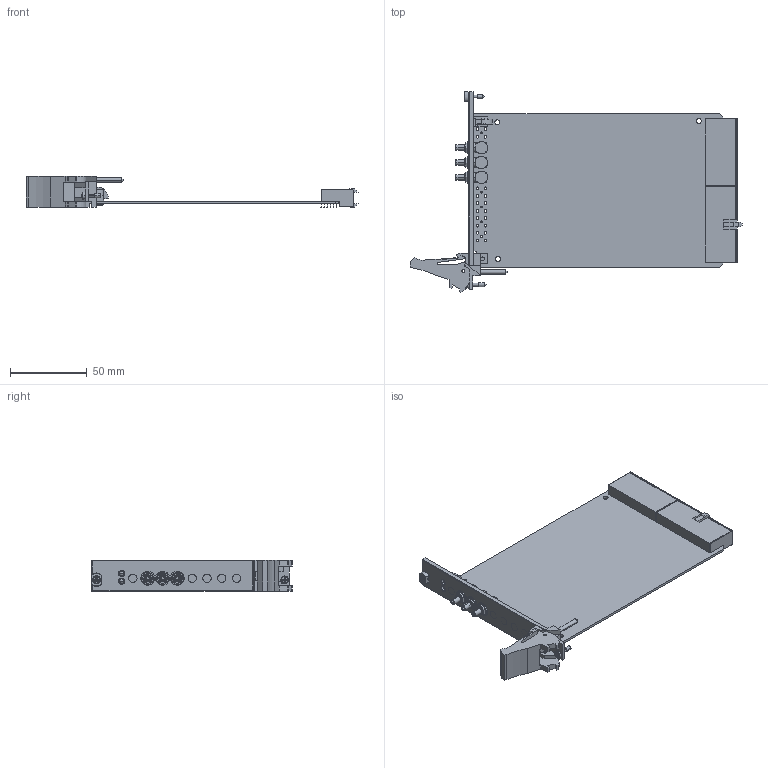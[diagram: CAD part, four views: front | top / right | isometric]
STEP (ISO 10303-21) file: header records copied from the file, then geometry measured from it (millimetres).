
FILE_DESCRIPTION((''),'2;1');
FILE_NAME('CU_CCA_PXI_6651','2009-06-04T',('jpfaff'),(''),'PRO/ENGINEER BY PARAMETRIC TECHNOLOGY CORPORATION, 2006080','PRO/ENGINEER BY PARAMETRIC TECHNOLOGY CORPORATION, 2006080','');
FILE_SCHEMA(('CONFIG_CONTROL_DESIGN'));
Length unit declared in the file: inch
Products named in the file (1): CU_CCA_PXI_6651
Bounding box: 216.08 x 130.5 x 20.19 mm (x, y, z)
Volume: 59404.2 mm3; surface area: 51972.3 mm2
Topology: 1 solids, 1 shells, 860 faces, 2241 edges, 1452 vertices
Faces by surface type: plane 520, cylinder 298, cone 26, sphere 12, torus 4
Entity records: 27598 total; most frequent: CARTESIAN_POINT 5658, DIRECTION 4671, ORIENTED_EDGE 4466, EDGE_CURVE 2233, AXIS2_PLACEMENT_3D 1644, VERTEX_POINT 1452, VECTOR 1383, LINE 1383
